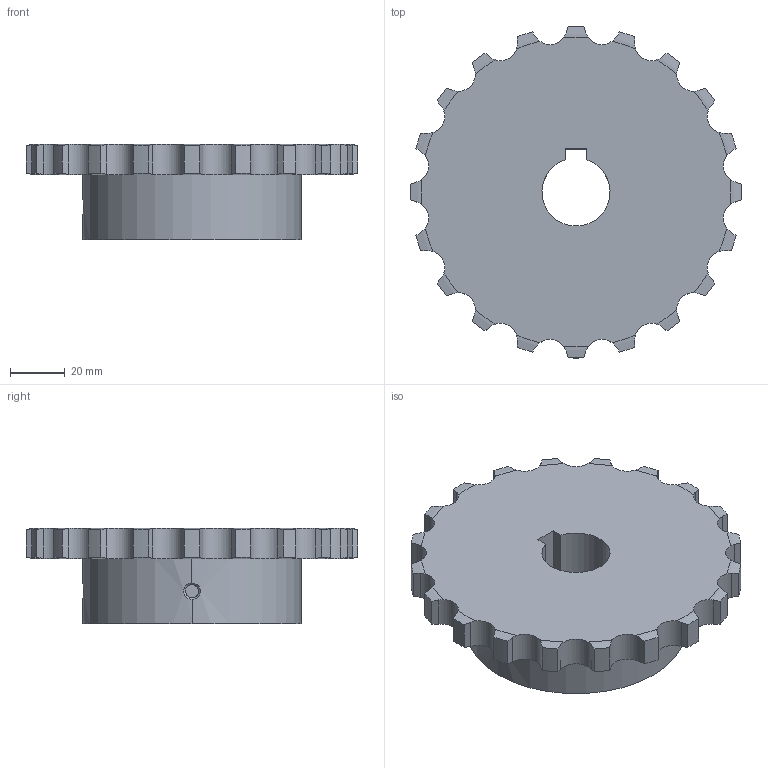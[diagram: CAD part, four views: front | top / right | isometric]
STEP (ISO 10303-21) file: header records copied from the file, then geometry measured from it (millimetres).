
FILE_DESCRIPTION((''),'2;1');
FILE_NAME('510-401-2520_PRT','2021-02-13T',('Brieden'),('Brieden'),'PRO/ENGINEER BY PARAMETRIC TECHNOLOGY CORPORATION, 2010160','PRO/ENGINEER BY PARAMETRIC TECHNOLOGY CORPORATION, 2010160','');
FILE_SCHEMA(('AUTOMOTIVE_DESIGN { 1 0 10303 214 1 1 1 1 }'));
Length unit declared in the file: millimetre
Products named in the file (1): 510-401-2520_PRT
Bounding box: 121.76 x 121.76 x 35 mm (x, y, z)
Volume: 217728.1 mm3; surface area: 34674.4 mm2
Topology: 1 solids, 1 shells, 141 faces, 405 edges, 268 vertices
Faces by surface type: cylinder 87, torus 40, plane 8, bspline 6
Entity records: 6844 total; most frequent: CARTESIAN_POINT 2093, ORIENTED_EDGE 810, DIRECTION 633, PRESENTATION_STYLE_ASSIGNMENT 406, STYLED_ITEM 406, CURVE_STYLE 405, EDGE_CURVE 405, VERTEX_POINT 268
